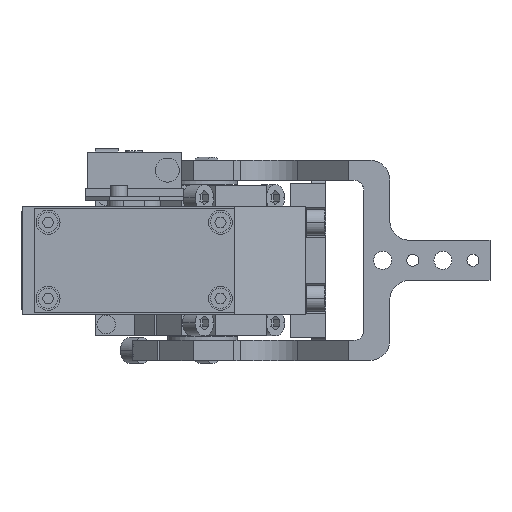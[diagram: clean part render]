
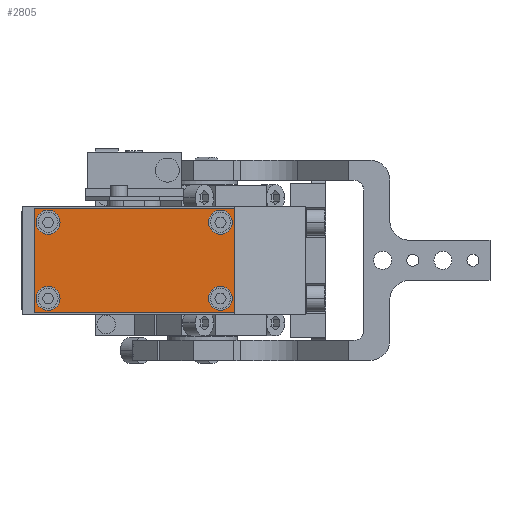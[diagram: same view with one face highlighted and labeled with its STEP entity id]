
A CAD part, front view. The second image highlights one B-rep face of the part: STEP entity #2805.
In plain terms, the highlighted planar face has unit normal (0, -1, 0).
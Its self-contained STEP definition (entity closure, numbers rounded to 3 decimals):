
#33 = CARTESIAN_POINT ( 'NONE',  ( 0., -294.5, 0. ) ) ;
#122 = DIRECTION ( 'NONE',  ( 1., 0., 0. ) ) ;
#128 = CARTESIAN_POINT ( 'NONE',  ( -84., -294.5, 53. ) ) ;
#203 = LINE ( 'NONE', #23036, #18667 ) ;
#639 = DIRECTION ( 'NONE',  ( 0., -1., 0. ) ) ;
#866 = ORIENTED_EDGE ( 'NONE', *, *, #19254, .F. ) ;
#895 = VERTEX_POINT ( 'NONE', #15682 ) ;
#1165 = ORIENTED_EDGE ( 'NONE', *, *, #18907, .F. ) ;
#1419 = DIRECTION ( 'NONE',  ( 0., 0., -1. ) ) ;
#1501 = EDGE_CURVE ( 'NONE', #17091, #5860, #10289, .T. ) ;
#1658 = VERTEX_POINT ( 'NONE', #20260 ) ;
#2029 = VERTEX_POINT ( 'NONE', #20377 ) ;
#2361 = DIRECTION ( 'NONE',  ( 0., 0., -1. ) ) ;
#2805 = ADVANCED_FACE ( 'NONE', ( #5407, #4881, #5757, #5592, #15690 ), #2906, .T. ) ;
#2882 = CARTESIAN_POINT ( 'NONE',  ( 9., -294.5, 40. ) ) ;
#2906 = PLANE ( 'NONE',  #5066 ) ;
#2982 = CARTESIAN_POINT ( 'NONE',  ( -84., -294.5, 53. ) ) ;
#3074 = DIRECTION ( 'NONE',  ( 0., 0., -1. ) ) ;
#3426 = CARTESIAN_POINT ( 'NONE',  ( 9., -294.5, 46. ) ) ;
#3457 = CARTESIAN_POINT ( 'NONE',  ( 16., -294.5, 53. ) ) ;
#3651 = ORIENTED_EDGE ( 'NONE', *, *, #15621, .T. ) ;
#3787 = ORIENTED_EDGE ( 'NONE', *, *, #15431, .F. ) ;
#3812 = DIRECTION ( 'NONE',  ( 0., 0., -1. ) ) ;
#4136 = DIRECTION ( 'NONE',  ( 0., -1., 0. ) ) ;
#4379 = CIRCLE ( 'NONE', #8938, 6. ) ;
#4659 = CARTESIAN_POINT ( 'NONE',  ( 16., -294.5, 1. ) ) ;
#4750 = EDGE_LOOP ( 'NONE', ( #8010, #3651, #866, #13609 ) ) ;
#4766 = VECTOR ( 'NONE', #16164, 1000. ) ;
#4808 = VERTEX_POINT ( 'NONE', #19447 ) ;
#4881 = FACE_BOUND ( 'NONE', #24869, .T. ) ;
#4977 = DIRECTION ( 'NONE',  ( 0., -1., 0. ) ) ;
#5066 = AXIS2_PLACEMENT_3D ( 'NONE', #33, #22879, #20491 ) ;
#5153 = VERTEX_POINT ( 'NONE', #128 ) ;
#5407 = FACE_BOUND ( 'NONE', #7517, .T. ) ;
#5592 = FACE_BOUND ( 'NONE', #24163, .T. ) ;
#5621 = LINE ( 'NONE', #2982, #16310 ) ;
#5741 = DIRECTION ( 'NONE',  ( 0., -1., 0. ) ) ;
#5757 = FACE_BOUND ( 'NONE', #24236, .T. ) ;
#5860 = VERTEX_POINT ( 'NONE', #7723 ) ;
#6048 = CARTESIAN_POINT ( 'NONE',  ( -77., -294.5, 46. ) ) ;
#6501 = CARTESIAN_POINT ( 'NONE',  ( -84., -294.5, 53. ) ) ;
#6791 = CARTESIAN_POINT ( 'NONE',  ( 9., -294.5, 46. ) ) ;
#7517 = EDGE_LOOP ( 'NONE', ( #12536, #3787 ) ) ;
#7723 = CARTESIAN_POINT ( 'NONE',  ( -77., -294.5, 14. ) ) ;
#8010 = ORIENTED_EDGE ( 'NONE', *, *, #18970, .T. ) ;
#8402 = CARTESIAN_POINT ( 'NONE',  ( -77., -294.5, 46. ) ) ;
#8458 = DIRECTION ( 'NONE',  ( 0., 0., -1. ) ) ;
#8938 = AXIS2_PLACEMENT_3D ( 'NONE', #18171, #4977, #2361 ) ;
#8977 = EDGE_CURVE ( 'NONE', #23882, #16575, #20917, .T. ) ;
#9119 = ORIENTED_EDGE ( 'NONE', *, *, #15123, .F. ) ;
#9166 = LINE ( 'NONE', #6501, #16560 ) ;
#9566 = VERTEX_POINT ( 'NONE', #3457 ) ;
#9580 = CARTESIAN_POINT ( 'NONE',  ( -77., -294.5, 2. ) ) ;
#9716 = CIRCLE ( 'NONE', #21167, 6. ) ;
#9922 = VERTEX_POINT ( 'NONE', #4659 ) ;
#10182 = AXIS2_PLACEMENT_3D ( 'NONE', #17816, #15339, #12613 ) ;
#10289 = CIRCLE ( 'NONE', #10182, 6. ) ;
#10320 = CIRCLE ( 'NONE', #17896, 6. ) ;
#10765 = ORIENTED_EDGE ( 'NONE', *, *, #8977, .F. ) ;
#11083 = DIRECTION ( 'NONE',  ( 0., -1., 0. ) ) ;
#12030 = VERTEX_POINT ( 'NONE', #14929 ) ;
#12536 = ORIENTED_EDGE ( 'NONE', *, *, #1501, .F. ) ;
#12613 = DIRECTION ( 'NONE',  ( 0., 0., -1. ) ) ;
#12822 = ORIENTED_EDGE ( 'NONE', *, *, #24813, .F. ) ;
#13383 = EDGE_CURVE ( 'NONE', #5153, #9566, #5621, .T. ) ;
#13455 = DIRECTION ( 'NONE',  ( 0., 0., -1. ) ) ;
#13609 = ORIENTED_EDGE ( 'NONE', *, *, #13383, .F. ) ;
#13859 = CARTESIAN_POINT ( 'NONE',  ( 9., -294.5, 8. ) ) ;
#14929 = CARTESIAN_POINT ( 'NONE',  ( 9., -294.5, 14. ) ) ;
#14951 = EDGE_CURVE ( 'NONE', #12030, #1658, #10320, .T. ) ;
#15123 = EDGE_CURVE ( 'NONE', #1658, #12030, #20016, .T. ) ;
#15249 = AXIS2_PLACEMENT_3D ( 'NONE', #24347, #21826, #19453 ) ;
#15339 = DIRECTION ( 'NONE',  ( 0., -1., 0. ) ) ;
#15431 = EDGE_CURVE ( 'NONE', #5860, #17091, #4379, .T. ) ;
#15621 = EDGE_CURVE ( 'NONE', #4808, #9922, #20987, .T. ) ;
#15682 = CARTESIAN_POINT ( 'NONE',  ( -77., -294.5, 40. ) ) ;
#15690 = FACE_OUTER_BOUND ( 'NONE', #4750, .T. ) ;
#16114 = DIRECTION ( 'NONE',  ( 0., -1., 0. ) ) ;
#16164 = DIRECTION ( 'NONE',  ( 1., 0., 0. ) ) ;
#16284 = EDGE_CURVE ( 'NONE', #2029, #895, #20199, .T. ) ;
#16310 = VECTOR ( 'NONE', #122, 1000. ) ;
#16560 = VECTOR ( 'NONE', #3812, 1000. ) ;
#16575 = VERTEX_POINT ( 'NONE', #18931 ) ;
#16966 = ORIENTED_EDGE ( 'NONE', *, *, #16284, .F. ) ;
#17091 = VERTEX_POINT ( 'NONE', #9580 ) ;
#17816 = CARTESIAN_POINT ( 'NONE',  ( -77., -294.5, 8. ) ) ;
#17896 = AXIS2_PLACEMENT_3D ( 'NONE', #13859, #11083, #8458 ) ;
#18171 = CARTESIAN_POINT ( 'NONE',  ( -77., -294.5, 8. ) ) ;
#18573 = CARTESIAN_POINT ( 'NONE',  ( -84., -294.5, 1. ) ) ;
#18667 = VECTOR ( 'NONE', #20637, 1000. ) ;
#18756 = CIRCLE ( 'NONE', #22465, 6. ) ;
#18907 = EDGE_CURVE ( 'NONE', #895, #2029, #18756, .T. ) ;
#18931 = CARTESIAN_POINT ( 'NONE',  ( 9., -294.5, 52. ) ) ;
#18970 = EDGE_CURVE ( 'NONE', #5153, #4808, #9166, .T. ) ;
#19254 = EDGE_CURVE ( 'NONE', #9566, #9922, #203, .T. ) ;
#19447 = CARTESIAN_POINT ( 'NONE',  ( -84., -294.5, 1. ) ) ;
#19453 = DIRECTION ( 'NONE',  ( 0., 0., -1. ) ) ;
#20016 = CIRCLE ( 'NONE', #15249, 6. ) ;
#20199 = CIRCLE ( 'NONE', #22840, 6. ) ;
#20260 = CARTESIAN_POINT ( 'NONE',  ( 9., -294.5, 2. ) ) ;
#20377 = CARTESIAN_POINT ( 'NONE',  ( -77., -294.5, 52. ) ) ;
#20491 = DIRECTION ( 'NONE',  ( 0., 0., -1. ) ) ;
#20637 = DIRECTION ( 'NONE',  ( 0., 0., -1. ) ) ;
#20917 = CIRCLE ( 'NONE', #25125, 6. ) ;
#20987 = LINE ( 'NONE', #18573, #4766 ) ;
#21167 = AXIS2_PLACEMENT_3D ( 'NONE', #3426, #639, #23415 ) ;
#21826 = DIRECTION ( 'NONE',  ( 0., -1., 0. ) ) ;
#22465 = AXIS2_PLACEMENT_3D ( 'NONE', #8402, #5741, #3074 ) ;
#22573 = ORIENTED_EDGE ( 'NONE', *, *, #14951, .F. ) ;
#22840 = AXIS2_PLACEMENT_3D ( 'NONE', #6048, #16114, #13455 ) ;
#22879 = DIRECTION ( 'NONE',  ( 0., -1., 0. ) ) ;
#23036 = CARTESIAN_POINT ( 'NONE',  ( 16., -294.5, 53. ) ) ;
#23415 = DIRECTION ( 'NONE',  ( 0., 0., -1. ) ) ;
#23882 = VERTEX_POINT ( 'NONE', #2882 ) ;
#24163 = EDGE_LOOP ( 'NONE', ( #1165, #16966 ) ) ;
#24236 = EDGE_LOOP ( 'NONE', ( #10765, #12822 ) ) ;
#24347 = CARTESIAN_POINT ( 'NONE',  ( 9., -294.5, 8. ) ) ;
#24813 = EDGE_CURVE ( 'NONE', #16575, #23882, #9716, .T. ) ;
#24869 = EDGE_LOOP ( 'NONE', ( #9119, #22573 ) ) ;
#25125 = AXIS2_PLACEMENT_3D ( 'NONE', #6791, #4136, #1419 ) ;
